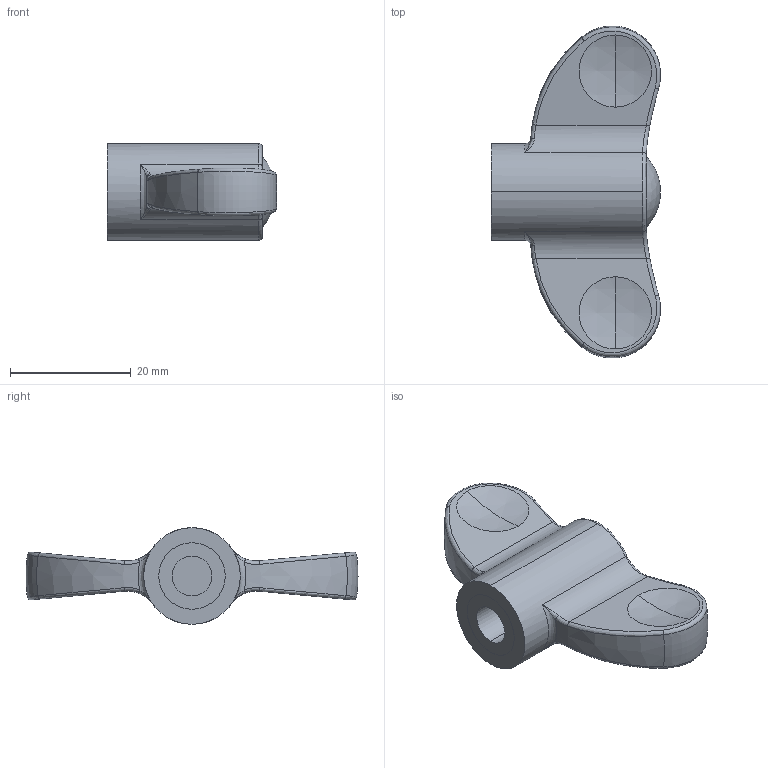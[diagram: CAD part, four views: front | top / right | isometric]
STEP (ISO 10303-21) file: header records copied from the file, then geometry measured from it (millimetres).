
FILE_DESCRIPTION (( 'STEP AP214' ), '1' );
FILE_NAME ('634-55-M8-E-DGR.step', '2020-06-19T05:07:56', ( '' ), ( '' ), 'SwSTEP 2.0', 'SolidWorks 2019', '' );
FILE_SCHEMA (( 'AUTOMOTIVE_DESIGN' ));
Length unit declared in the file: millimetre
Products named in the file (1): 634-55-M8-E-DGR
Bounding box: 28 x 54.98 x 16 mm (x, y, z)
Volume: 8041.6 mm3; surface area: 4091.8 mm2
Topology: 1 solids, 1 shells, 74 faces, 170 edges, 102 vertices
Faces by surface type: bspline 20, torus 17, cylinder 16, sphere 12, plane 9
Entity records: 3529 total; most frequent: CARTESIAN_POINT 1845, DIRECTION 334, ORIENTED_EDGE 332, EDGE_CURVE 166, AXIS2_PLACEMENT_3D 157, VERTEX_POINT 102, CIRCLE 102, EDGE_LOOP 82
